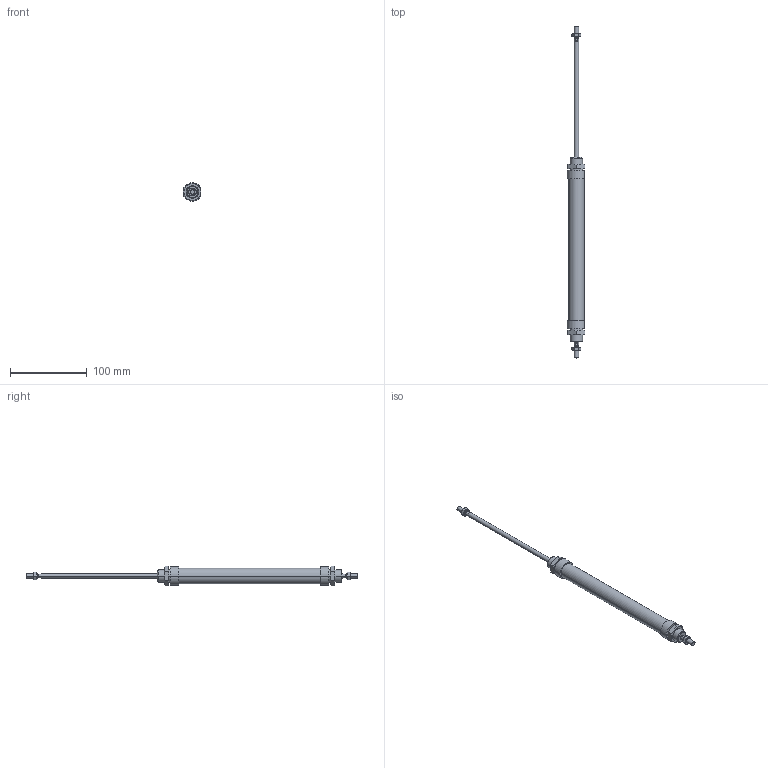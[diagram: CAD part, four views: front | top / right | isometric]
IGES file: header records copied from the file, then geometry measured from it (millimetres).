
Global section: file name: No Iges File Name specified; native system: AutoDesk Inventor R6.0; preprocessor: AutoDesk Inventor Iges Exporter R6.0; author: No Author specified; organization: No Organization specified; date: 20030403.072208; units: millimetre
Bounding box: 23 x 432 x 25.4 mm (x, y, z)
Volume: 82816.5 mm3; surface area: 31738.5 mm2
Topology: 6 solids, 6 shells, 180 faces, 388 edges, 228 vertices
Faces by surface type: cone 68, plane 56, bspline 30, cylinder 20, revolution 6
